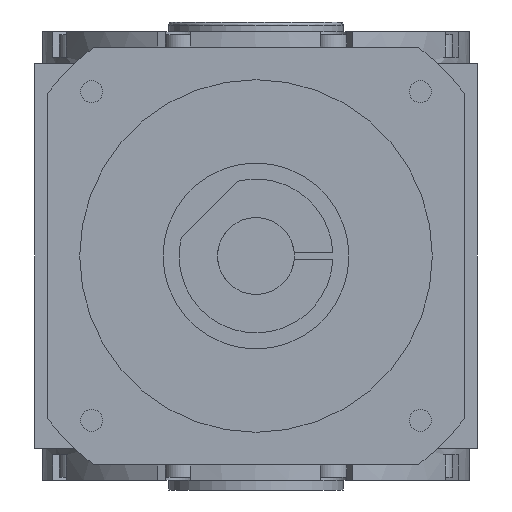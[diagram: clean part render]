
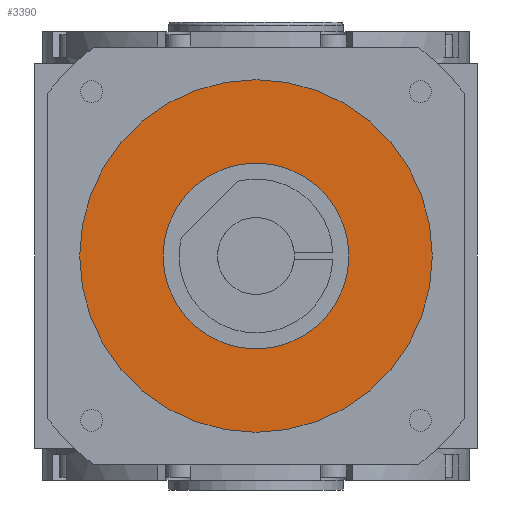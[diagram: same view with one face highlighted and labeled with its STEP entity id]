
A CAD part, front view. The second image highlights one B-rep face of the part: STEP entity #3390.
In plain terms, the highlighted planar face has unit normal (0, -1, 0) as drawn and (0, 0, -1) by its records, which use the part's own axes.
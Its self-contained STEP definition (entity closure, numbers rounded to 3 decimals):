
#362 = EDGE_CURVE ( 'NONE', #7997, #2742, #10595, .T. ) ;
#405 = VERTEX_POINT ( 'NONE', #6492 ) ;
#544 = CIRCLE ( 'NONE', #2410, 55. ) ;
#546 = DIRECTION ( 'NONE',  ( -1., 0., 0. ) ) ;
#722 = CARTESIAN_POINT ( 'NONE',  ( 0., 0., -151. ) ) ;
#1280 = ORIENTED_EDGE ( 'NONE', *, *, #10828, .T. ) ;
#1649 = DIRECTION ( 'NONE',  ( -1., 0., 0. ) ) ;
#1988 = PLANE ( 'NONE',  #5621 ) ;
#2410 = AXIS2_PLACEMENT_3D ( 'NONE', #12798, #3811, #4900 ) ;
#2578 = AXIS2_PLACEMENT_3D ( 'NONE', #13050, #4243, #1649 ) ;
#2742 = VERTEX_POINT ( 'NONE', #3167 ) ;
#3108 = EDGE_CURVE ( 'NONE', #10495, #405, #544, .T. ) ;
#3167 = CARTESIAN_POINT ( 'NONE',  ( -29., 0., -151. ) ) ;
#3390 = ADVANCED_FACE ( 'NONE', ( #10800, #14624 ), #1988, .T. ) ;
#3553 = CIRCLE ( 'NONE', #8869, 29. ) ;
#3811 = DIRECTION ( 'NONE',  ( 0., 0., -1. ) ) ;
#3898 = DIRECTION ( 'NONE',  ( -1., 0., 0. ) ) ;
#4243 = DIRECTION ( 'NONE',  ( 0., 0., -1. ) ) ;
#4900 = DIRECTION ( 'NONE',  ( -1., 0., 0. ) ) ;
#5621 = AXIS2_PLACEMENT_3D ( 'NONE', #722, #12208, #5890 ) ;
#5890 = DIRECTION ( 'NONE',  ( -1., 0., 0. ) ) ;
#6492 = CARTESIAN_POINT ( 'NONE',  ( 55., 0., -151. ) ) ;
#6943 = CARTESIAN_POINT ( 'NONE',  ( 0., 0., -151. ) ) ;
#7077 = ORIENTED_EDGE ( 'NONE', *, *, #362, .T. ) ;
#7563 = ORIENTED_EDGE ( 'NONE', *, *, #3108, .T. ) ;
#7997 = VERTEX_POINT ( 'NONE', #10614 ) ;
#8869 = AXIS2_PLACEMENT_3D ( 'NONE', #11962, #12119, #546 ) ;
#9892 = EDGE_LOOP ( 'NONE', ( #7563, #1280 ) ) ;
#10426 = ORIENTED_EDGE ( 'NONE', *, *, #12448, .T. ) ;
#10495 = VERTEX_POINT ( 'NONE', #12225 ) ;
#10595 = CIRCLE ( 'NONE', #15637, 29. ) ;
#10614 = CARTESIAN_POINT ( 'NONE',  ( 29., 0., -151. ) ) ;
#10800 = FACE_OUTER_BOUND ( 'NONE', #9892, .T. ) ;
#10828 = EDGE_CURVE ( 'NONE', #405, #10495, #11900, .T. ) ;
#11468 = DIRECTION ( 'NONE',  ( 0., 0., 1. ) ) ;
#11900 = CIRCLE ( 'NONE', #2578, 55. ) ;
#11962 = CARTESIAN_POINT ( 'NONE',  ( 0., 0., -151. ) ) ;
#12119 = DIRECTION ( 'NONE',  ( 0., 0., 1. ) ) ;
#12208 = DIRECTION ( 'NONE',  ( 0., 0., -1. ) ) ;
#12225 = CARTESIAN_POINT ( 'NONE',  ( -55., 0., -151. ) ) ;
#12448 = EDGE_CURVE ( 'NONE', #2742, #7997, #3553, .T. ) ;
#12798 = CARTESIAN_POINT ( 'NONE',  ( 0., 0., -151. ) ) ;
#13050 = CARTESIAN_POINT ( 'NONE',  ( 0., 0., -151. ) ) ;
#13436 = EDGE_LOOP ( 'NONE', ( #10426, #7077 ) ) ;
#14624 = FACE_BOUND ( 'NONE', #13436, .T. ) ;
#15637 = AXIS2_PLACEMENT_3D ( 'NONE', #6943, #11468, #3898 ) ;
